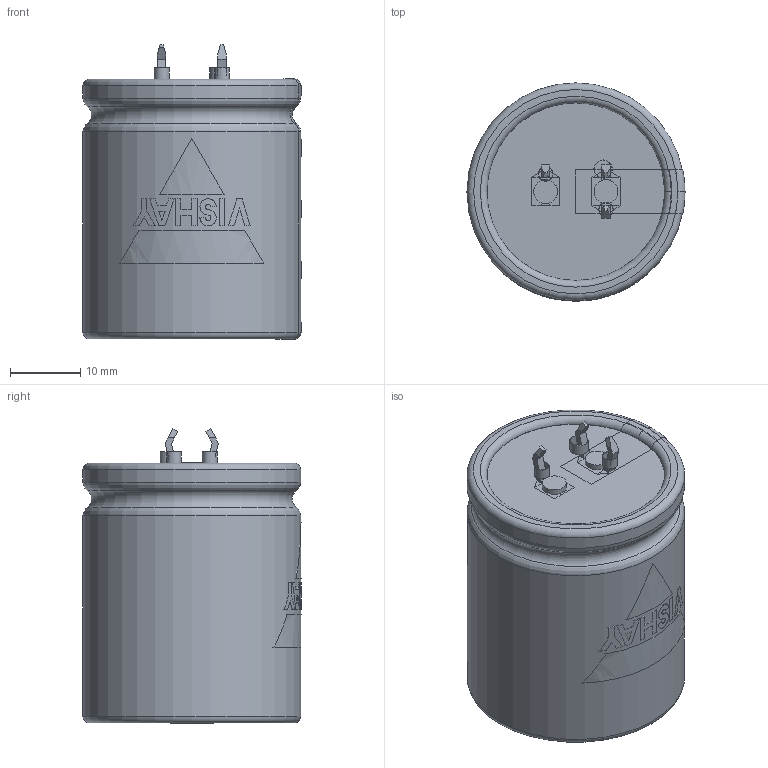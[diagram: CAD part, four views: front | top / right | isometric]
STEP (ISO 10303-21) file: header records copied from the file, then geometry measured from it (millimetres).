
FILE_DESCRIPTION(('FreeCAD Model'),'2;1');
FILE_NAME( 'C:/Users/Gebruiker/Documents/FreeCAD/SnapIn_30x35_3pin_4.0.step', '2020-11-12T21:11:42',('Author'),(''), 'Open CASCADE STEP processor 6.8','FreeCAD','Unknown');
FILE_SCHEMA(('AUTOMOTIVE_DESIGN_CC2 { 1 2 10303 214 -1 1 5 4 }'));
Length unit declared in the file: millimetre
Products named in the file (9): ASSEMBLY; TerminalPlus; Disc; BottomInsulation; Can3D; InkMinusBar; InkLogo; TerminalMinKP; PCBHolesKP
Assembly tree (8 placements, depth 2):
  ASSEMBLY
    TerminalPlus
    Disc
    BottomInsulation
    Can3D
    InkMinusBar
    InkLogo
    TerminalMinKP
    PCBHolesKP
Bounding box: 31.05 x 31.05 x 41.95 mm (x, y, z)
Volume: 31906 mm3; surface area: 12827.7 mm2
Topology: 17 solids, 17 shells, 204 faces, 494 edges, 322 vertices
Faces by surface type: plane 155, cylinder 31, torus 18
Full cylindrical faces by diameter (mm): 2 x2, 2.1 x2, 2.5 x1, 2.6 x1, 3.4 x2, 24.8 x2, 25.3 x1, 31 x2
Entity records: 20338 total; most frequent: CARTESIAN_POINT 9277, DIRECTION 1715, ORIENTED_EDGE 988, PCURVE 988, DEFINITIONAL_REPRESENTATION 988, LINE 959, VECTOR 959, EDGE_CURVE 494
